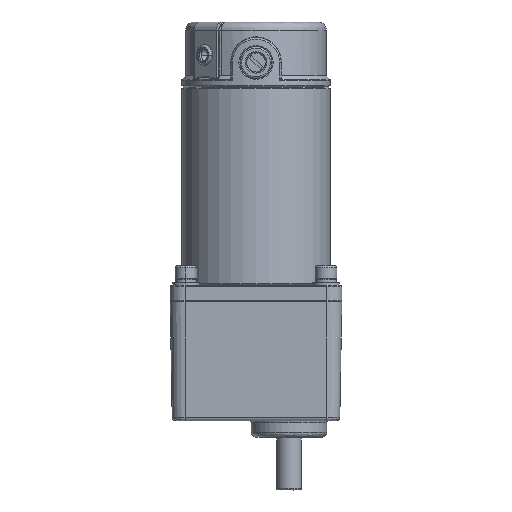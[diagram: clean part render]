
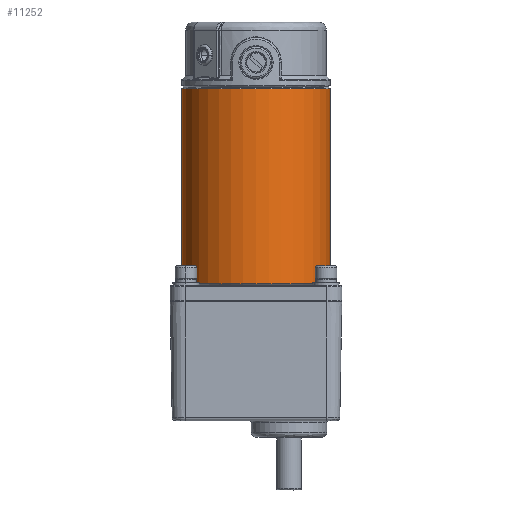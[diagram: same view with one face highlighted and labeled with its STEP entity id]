
A CAD part, front view. The second image highlights one B-rep face of the part: STEP entity #11252.
In plain terms, the highlighted cylindrical face has radius 45 mm (diameter 90 mm), a partial arc.
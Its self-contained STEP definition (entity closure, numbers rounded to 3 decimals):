
#1015 = CIRCLE ( 'NONE', #9143, 45. ) ;
#1908 = DIRECTION ( 'NONE',  ( 0., 1., 0. ) ) ;
#2053 = EDGE_LOOP ( 'NONE', ( #10296, #4211, #19977, #21299, #22121 ) ) ;
#2496 = CARTESIAN_POINT ( 'NONE',  ( 37.241, 0.828, 0. ) ) ;
#2875 = CARTESIAN_POINT ( 'NONE',  ( -7.759, 0., -45. ) ) ;
#3177 = CARTESIAN_POINT ( 'NONE',  ( -7.759, 0., 45. ) ) ;
#3632 = LINE ( 'NONE', #3177, #9675 ) ;
#4211 = ORIENTED_EDGE ( 'NONE', *, *, #9187, .T. ) ;
#4437 = CARTESIAN_POINT ( 'NONE',  ( -7.759, 0.828, 45. ) ) ;
#4795 = DIRECTION ( 'NONE',  ( 0., 1., 0. ) ) ;
#5602 = VECTOR ( 'NONE', #6461, 1000. ) ;
#5967 = CIRCLE ( 'NONE', #6736, 45. ) ;
#6461 = DIRECTION ( 'NONE',  ( 0., 1., 0. ) ) ;
#6530 = DIRECTION ( 'NONE',  ( 0., 0., 1. ) ) ;
#6736 = AXIS2_PLACEMENT_3D ( 'NONE', #12973, #14950, #22009 ) ;
#7535 = EDGE_CURVE ( 'NONE', #18580, #18070, #1015, .T. ) ;
#8535 = CIRCLE ( 'NONE', #21531, 45. ) ;
#8626 = DIRECTION ( 'NONE',  ( 0., 0., 1. ) ) ;
#8629 = AXIS2_PLACEMENT_3D ( 'NONE', #20563, #10475, #8626 ) ;
#9143 = AXIS2_PLACEMENT_3D ( 'NONE', #16525, #4795, #6530 ) ;
#9145 = VERTEX_POINT ( 'NONE', #15259 ) ;
#9187 = EDGE_CURVE ( 'NONE', #10753, #9145, #14802, .T. ) ;
#9571 = EDGE_CURVE ( 'NONE', #18580, #22487, #3632, .T. ) ;
#9675 = VECTOR ( 'NONE', #22752, 1000. ) ;
#10296 = ORIENTED_EDGE ( 'NONE', *, *, #14295, .T. ) ;
#10475 = DIRECTION ( 'NONE',  ( 0., 1., 0. ) ) ;
#10715 = DIRECTION ( 'NONE',  ( 0., 0., 1. ) ) ;
#10753 = VERTEX_POINT ( 'NONE', #14022 ) ;
#11252 = ADVANCED_FACE ( 'NONE', ( #15693 ), #13507, .T. ) ;
#12973 = CARTESIAN_POINT ( 'NONE',  ( -7.759, 119.172, 0. ) ) ;
#13507 = CYLINDRICAL_SURFACE ( 'NONE', #8629, 45. ) ;
#13818 = EDGE_CURVE ( 'NONE', #9145, #22487, #5967, .T. ) ;
#14022 = CARTESIAN_POINT ( 'NONE',  ( -7.759, 0.828, -45. ) ) ;
#14073 = CARTESIAN_POINT ( 'NONE',  ( -7.759, 0.828, 0. ) ) ;
#14295 = EDGE_CURVE ( 'NONE', #18070, #10753, #8535, .T. ) ;
#14802 = LINE ( 'NONE', #2875, #5602 ) ;
#14950 = DIRECTION ( 'NONE',  ( 0., -1., 0. ) ) ;
#15259 = CARTESIAN_POINT ( 'NONE',  ( -7.759, 119.172, -45. ) ) ;
#15693 = FACE_OUTER_BOUND ( 'NONE', #2053, .T. ) ;
#16525 = CARTESIAN_POINT ( 'NONE',  ( -7.759, 0.828, 0. ) ) ;
#18070 = VERTEX_POINT ( 'NONE', #2496 ) ;
#18580 = VERTEX_POINT ( 'NONE', #4437 ) ;
#19977 = ORIENTED_EDGE ( 'NONE', *, *, #13818, .T. ) ;
#20563 = CARTESIAN_POINT ( 'NONE',  ( -7.759, 0., 0. ) ) ;
#21299 = ORIENTED_EDGE ( 'NONE', *, *, #9571, .F. ) ;
#21531 = AXIS2_PLACEMENT_3D ( 'NONE', #14073, #1908, #10715 ) ;
#22009 = DIRECTION ( 'NONE',  ( 0., 0., 1. ) ) ;
#22121 = ORIENTED_EDGE ( 'NONE', *, *, #7535, .T. ) ;
#22487 = VERTEX_POINT ( 'NONE', #22547 ) ;
#22547 = CARTESIAN_POINT ( 'NONE',  ( -7.759, 119.172, 45. ) ) ;
#22752 = DIRECTION ( 'NONE',  ( 0., 1., 0. ) ) ;
